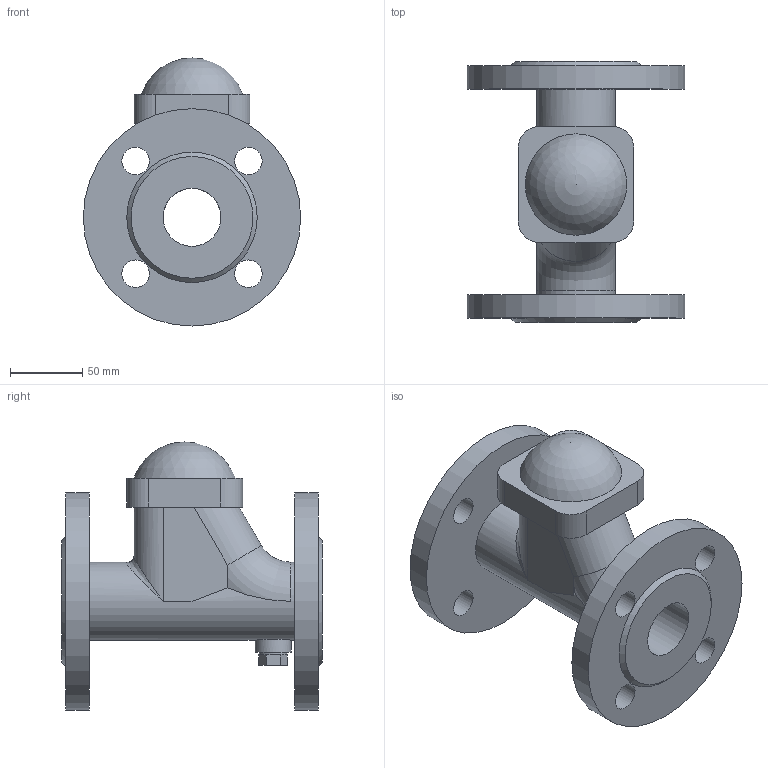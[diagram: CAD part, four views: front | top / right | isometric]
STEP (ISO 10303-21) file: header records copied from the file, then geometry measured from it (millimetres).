
FILE_DESCRIPTION(('STEP AP203'), '1');
FILE_NAME('Êëàïàí îáðàòíûé øàðîâîé ôëàíöåâûé 012F.Z DN40 PN10_16', '', ('UNSPECIFIED'), ('UNSPECIFIED'), 'ASCON STEP Converter 1.6', 'ASCON Math Kernel', '');
FILE_SCHEMA(('CONFIG_CONTROL_DESIGN'));
Length unit declared in the file: millimetre
Bounding box: 150 x 180 x 185 mm (x, y, z)
Volume: 990097.6 mm3; surface area: 159763.8 mm2
Topology: 1 solids, 1 shells, 74 faces, 179 edges, 112 vertices
Faces by surface type: plane 44, cylinder 22, torus 3, cone 2, bspline 2, sphere 1
Full cylindrical faces by diameter (mm): 19 x9, 25 x1, 40 x1, 54 x1, 150 x2
Entity records: 3270 total; most frequent: CARTESIAN_POINT 962, DIRECTION 349, ORIENTED_EDGE 314, EDGE_CURVE 157, AXIS2_PLACEMENT_3D 140, EDGE_LOOP 118, VERTEX_POINT 111, FACE_BOUND 87
